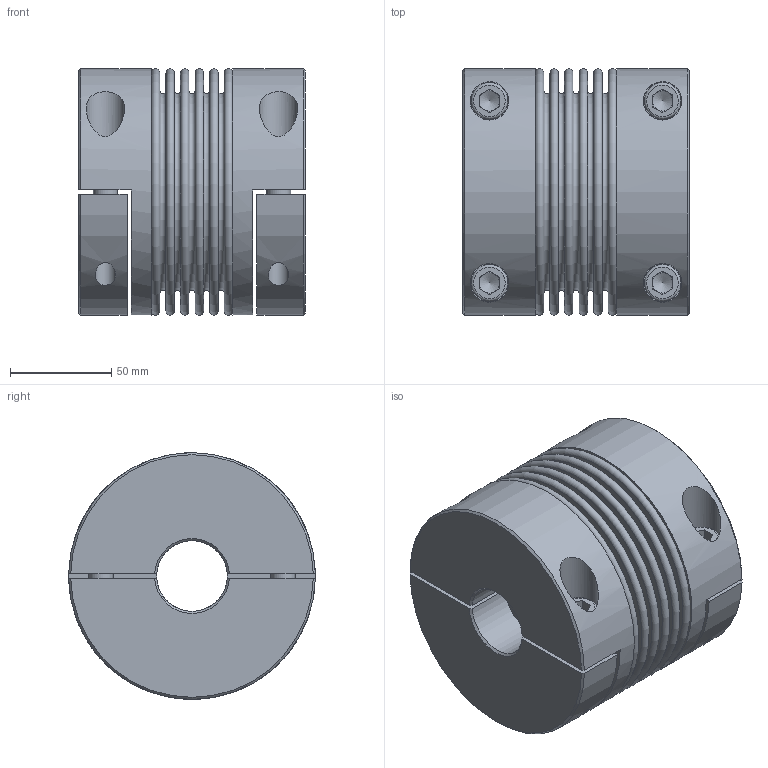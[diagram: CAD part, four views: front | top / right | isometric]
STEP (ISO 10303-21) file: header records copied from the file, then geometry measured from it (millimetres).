
FILE_DESCRIPTION( ( 'Unknown' ), '1' );
FILE_NAME( 'C:/Users/skarpstein/Desktop/KB4HC/KB4HC-500-111.stp', 'Unknown', ( 'Unknown' ), ( 'Unknown' ), 'PSStep 16.0.42', 'Unknown', ' ' );
FILE_SCHEMA( ( 'AUTOMOTIVE_DESIGN { 1 0 10303 214 1 1 1 1 }' ) );
Length unit declared in the file: millimetre
Products named in the file (5): Assem1; KN4HC-500; Socket Head Cap Screw_DIN_DIN 912 M12 x 40 --- 40N_0; BL500_Standard_2
Assembly tree (9 placements, depth 2):
  Assem1
    KN4HC-500  x2
    KN4HC-500  x2
    Socket Head Cap Screw_DIN_DIN 912 M12 x 40 --- 40N_0  x4
    BL500_Standard_2
Bounding box: 112.2 x 122 x 122 mm (x, y, z)
Volume: 756307 mm3; surface area: 250394.1 mm2
Topology: 9 solids, 9 shells, 186 faces, 382 edges, 244 vertices
Faces by surface type: plane 108, cylinder 32, torus 30, cone 16
Full cylindrical faces by diameter (mm): 10.106 x4, 12 x4, 12.5 x4, 18 x4, 19 x4, 35 x2, 107.7 x2, 108.9 x2, 122 x2
Entity records: 3562 total; most frequent: CARTESIAN_POINT 749, DIRECTION 430, ORIENTED_EDGE 278, AXIS2_PLACEMENT_3D 195, EDGE_LOOP 176, EDGE_CURVE 139, FACE_OUTER_BOUND 136, VERTEX_POINT 128
